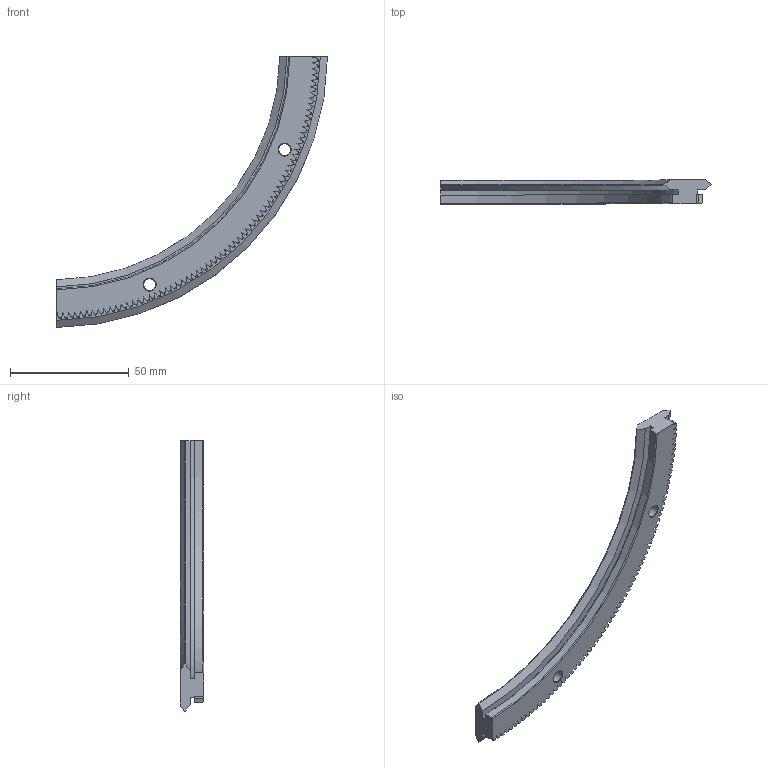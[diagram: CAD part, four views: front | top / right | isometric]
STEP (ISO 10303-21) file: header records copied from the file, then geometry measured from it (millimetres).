
FILE_DESCRIPTION( ( 'STEP AP203' ), '1' );
FILE_NAME( 'p:/temp/worker_34/temp/exporttempdir_4840_100_nHPvk/format_0/R20 210 R90 P.stp', '2021-08-30T04:11:00', ( 'License CC BY-ND 4.0' ), ( 'CADENAS' ), ' ', 'PARTsolutions', ' ' );
FILE_SCHEMA( ( 'CONFIG_CONTROL_DESIGN' ) );
Length unit declared in the file: millimetre
Products named in the file (1): _R20 210 R90 P
Bounding box: 114.05 x 10 x 114.05 mm (x, y, z)
Volume: 21092 mm3; surface area: 11324.3 mm2
Topology: 1 solids, 1 shells, 438 faces, 1162 edges, 728 vertices
Faces by surface type: plane 286, cone 75, cylinder 75, torus 2
Full cylindrical faces by diameter (mm): 5 x2, 8 x2
Entity records: 13653 total; most frequent: CARTESIAN_POINT 2781, ORIENTED_EDGE 2312, DIRECTION 2251, EDGE_CURVE 1156, AXIS2_PLACEMENT_3D 806, VERTEX_POINT 728, LINE 639, VECTOR 639
